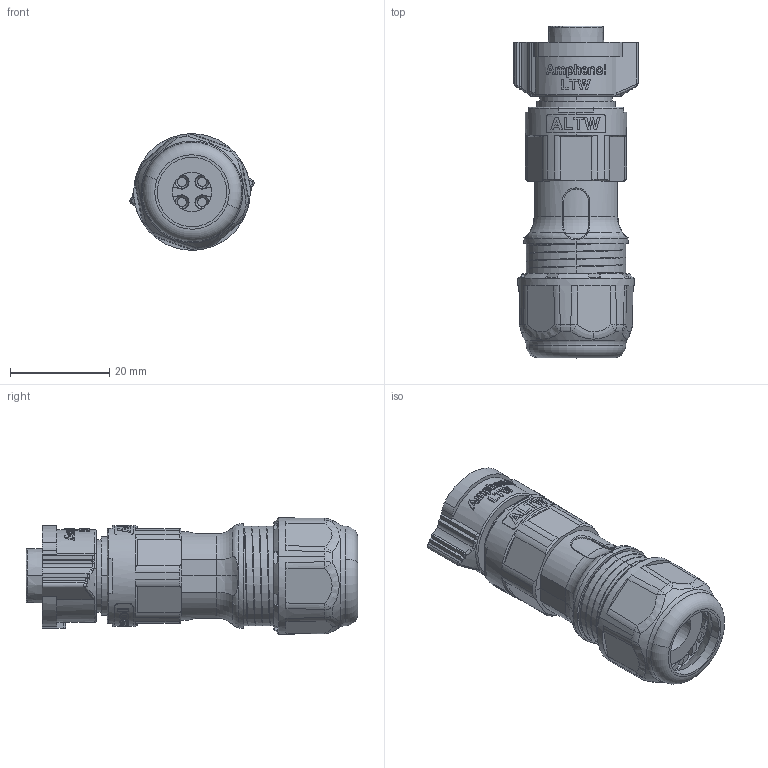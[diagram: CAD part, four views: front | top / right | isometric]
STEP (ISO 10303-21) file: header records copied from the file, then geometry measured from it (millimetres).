
FILE_DESCRIPTION((''),'2;1');
FILE_NAME('BB-02BFFB-QL8MPP','2021-09-06T',('L180082'),(''),'PRO/ENGINEER BY PARAMETRIC TECHNOLOGY CORPORATION, 2017170','PRO/ENGINEER BY PARAMETRIC TECHNOLOGY CORPORATION, 2017170','');
FILE_SCHEMA(('CONFIG_CONTROL_DESIGN'));
Products named in the file (1): BB-02BFFB-QL8MPP
Bounding box: 25 x 66.85 x 23.48 mm (x, y, z)
Volume: 15578.7 mm3; surface area: 9685.9 mm2
Topology: 1 solids, 1 shells, 1094 faces, 2888 edges, 1862 vertices
Faces by surface type: plane 359, extrusion 267, cylinder 174, bspline 148, cone 95, torus 37, sphere 14
Entity records: 51262 total; most frequent: CARTESIAN_POINT 22222, ORIENTED_EDGE 5776, DIRECTION 3858, EDGE_CURVE 2888, VERTEX_POINT 1862, B_SPLINE_CURVE_WITH_KNOTS 1553, AXIS2_PLACEMENT_3D 1310, VECTOR 1238
